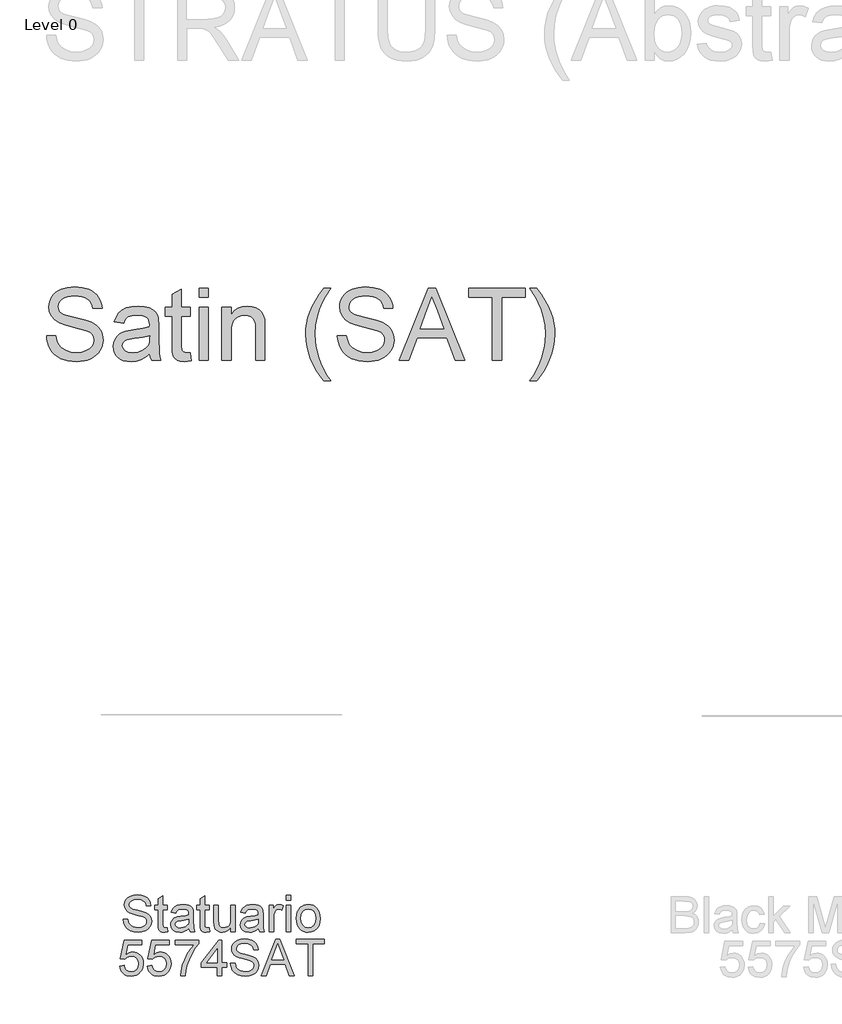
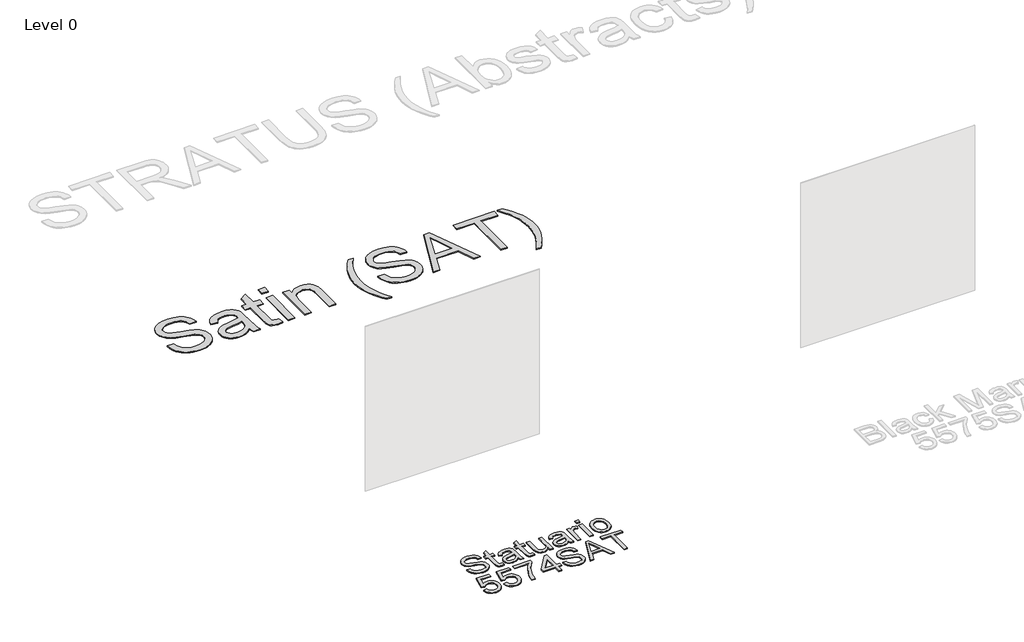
# One storey, part 4 of 9: 2 proxies.
"""IFC4 building model written with IfcOpenShell, lengths in millimetres."""

import ifcopenshell
import ifcopenshell.guid

model = None  # the IFC model being written
_history = None  # IfcOwnerHistory: only IFC2X3 demands one
_inside = {}  # id of a spatial element -> (the spatial element, [elements in it])
_under = {}  # id of a project, library or spatial element -> (it, [spatial elements below it])
_declared = {}  # id of a project -> (the project, [libraries it declares])
_typed = {}  # id of a type object -> (the type object, [elements of that type])
_made_of = {}  # id of a material, layer set ... -> (it, [elements and type objects made of it])


def new_model(schema):
    """Start an empty IFC model of exactly this schema.

    Asked for "IFC4X3", IfcOpenShell would pick the latest addendum, in which some entities
    have other attributes; the version numbers below select the first issue.
    IFC2X3 requires an IfcOwnerHistory on every rooted entity: one is made here for all.
    """
    global model, _history
    if schema == "IFC4X3":
        model = ifcopenshell.file(schema_version=(4, 3, 0, 0))
    else:
        model = ifcopenshell.file(schema=schema)
    _inside.clear()
    _under.clear()
    _declared.clear()
    _typed.clear()
    _made_of.clear()
    _history = None
    if model.schema == "IFC2X3":
        org = make("IfcOrganization", Name="unknown")
        user = make(
            "IfcPersonAndOrganization",
            ThePerson=make("IfcPerson", FamilyName="unknown"),
            TheOrganization=org,
        )
        app = make(
            "IfcApplication",
            ApplicationDeveloper=org,
            Version="unknown",
            ApplicationFullName="unknown",
            ApplicationIdentifier="unknown",
        )
        _history = make(
            "IfcOwnerHistory",
            OwningUser=user,
            OwningApplication=app,
            ChangeAction="ADDED",
            CreationDate=0,
        )
    return model


def make(cls, **values):
    """One entity of the class cls with the attributes given. An attribute that is None is left unset."""
    return model.create_entity(
        cls, **{name: value for name, value in values.items() if value is not None}
    )


def rooted(cls, **values):
    """An entity with a GlobalId (a new one), such as an element, a storey or a relation."""
    return make(cls, GlobalId=ifcopenshell.guid.new(), OwnerHistory=_history, **values)


def si_unit(unit_type, name, prefix=None):
    """IfcSIUnit, for example si_unit("LENGTHUNIT", "METRE", prefix="MILLI")."""
    return make("IfcSIUnit", UnitType=unit_type, Prefix=prefix, Name=name)


def assignment(units):
    """IfcUnitAssignment: the units of a project."""
    return None if units is None else make("IfcUnitAssignment", Units=units)


def point(xyz):
    """IfcCartesianPoint."""
    return None if xyz is None else make("IfcCartesianPoint", Coordinates=xyz)


def direction(xyz):
    """IfcDirection."""
    return None if xyz is None else make("IfcDirection", DirectionRatios=xyz)


def frame(location, z_axis=None, x_axis=None):
    """IfcAxis2Placement3D, a coordinate frame: its origin and axes. An axis left out is left unset."""
    return make(
        "IfcAxis2Placement3D",
        Location=point(location),
        Axis=direction(z_axis),
        RefDirection=direction(x_axis),
    )


def origin():
    """The frame at (0, 0, 0) with its axes left unset."""
    return frame((0.0, 0.0, 0.0))


def origin_with_axes():
    """The frame at (0, 0, 0) with the z axis (0, 0, 1) and the x axis (1, 0, 0) written out."""
    return frame((0.0, 0.0, 0.0), z_axis=(0.0, 0.0, 1.0), x_axis=(1.0, 0.0, 0.0))


def place(relative_to, where):
    """IfcLocalPlacement: puts the frame where relative to a parent placement (None: the world)."""
    return make(
        "IfcLocalPlacement", PlacementRelTo=relative_to, RelativePlacement=where
    )


def context(
    kind, dimensions, precision=None, world=None, true_north=None, identifier=None
):
    """IfcGeometricRepresentationContext, for example the 3D "Model" context."""
    return make(
        "IfcGeometricRepresentationContext",
        ContextIdentifier=identifier,
        ContextType=kind,
        CoordinateSpaceDimension=dimensions,
        Precision=precision,
        WorldCoordinateSystem=world,
        TrueNorth=true_north,
    )


def project(units=None, contexts=None):
    """IfcProject with its units and contexts."""
    return rooted(
        "IfcProject",
        Name="project",
        RepresentationContexts=contexts,
        UnitsInContext=assignment(units),
    )


def spatial(cls, under=None, at=None, **own):
    """A site, building, storey or space (cls), placed at a placement, below another one or the project."""
    s = rooted(cls, ObjectPlacement=at, **own)
    if under is not None:
        _under.setdefault(under.id(), (under, []))[1].append(s)
    return s


def polyline(points):
    """IfcPolyline through the points."""
    return make("IfcPolyline", Points=[point(p) for p in points])


def outline(outer, holes=None, kind="AREA"):
    """IfcArbitraryClosedProfileDef: a profile drawn as a closed curve; with holes, ...WithVoids."""
    if holes is None:
        return make("IfcArbitraryClosedProfileDef", ProfileType=kind, OuterCurve=outer)
    return make(
        "IfcArbitraryProfileDefWithVoids",
        ProfileType=kind,
        OuterCurve=outer,
        InnerCurves=holes,
    )


def extrude(swept, where, along, depth):
    """IfcExtrudedAreaSolid: the profile swept, set in the frame where, extruded along a direction by depth."""
    return make(
        "IfcExtrudedAreaSolid",
        SweptArea=swept,
        Position=where,
        ExtrudedDirection=direction(along),
        Depth=depth,
    )


def shape(context_of_items, identifier, shape_type, items):
    """IfcShapeRepresentation: the items that make up one representation, for example the "Body"."""
    return make(
        "IfcShapeRepresentation",
        ContextOfItems=context_of_items,
        RepresentationIdentifier=identifier,
        RepresentationType=shape_type,
        Items=items,
    )


def made_of(thing, what):
    """Note that an element or type object is made of a material, layer set ...; save() writes the relation."""
    if what is not None:
        _made_of.setdefault(what.id(), (what, []))[1].append(thing)
    return thing


def element(
    cls,
    number,
    at=None,
    inside=None,
    cuts=None,
    type_object=None,
    material=None,
    context=None,
    identifier="Body",
    shape_type=None,
    held_by="IfcProductDefinitionShape",
    body=None,
    shapes=None,
    **own,
):
    """One element of the class cls, such as IfcWall. Its Tag is "e" and its number.

    at: its placement. inside: the storey or other place that contains it. cuts: it is an
    opening in that element (IfcRelVoidsElement). A single representation is given by context,
    identifier, shape_type and body (its items); several are given by shapes. held_by: the class
    of the entity that holds the representations. save() writes the other relations.
    """
    e = rooted(cls, Tag="e%d" % number, ObjectPlacement=at, **own)
    if body is not None:
        shapes = [shape(context, identifier, shape_type, body)]
    if shapes is not None:
        e.Representation = make(held_by, Representations=shapes)
    if inside is not None:
        _inside.setdefault(inside.id(), (inside, []))[1].append(e)
    if cuts is not None:
        rooted(
            "IfcRelVoidsElement", RelatingBuildingElement=cuts, RelatedOpeningElement=e
        )
    if type_object is not None:
        _typed.setdefault(type_object.id(), (type_object, []))[1].append(e)
    return made_of(e, material)


def aggregate(whole, parts):
    """IfcRelAggregates: a whole, such as a stair, and the parts it consists of."""
    return rooted("IfcRelAggregates", RelatingObject=whole, RelatedObjects=parts)


def save(model, path):
    """Write the relations noted so far, then the file.

    IfcRelAggregates (storeys below a building ...), IfcRelContainedInSpatialStructure (elements
    in a storey), IfcRelDefinesByType, IfcRelAssociatesMaterial and IfcRelDeclares: one each for
    every whole, place, type object, material and project.
    """
    for whole, parts in _under.values():
        aggregate(whole, parts)
    for where, things in _inside.values():
        rooted(
            "IfcRelContainedInSpatialStructure",
            RelatedElements=things,
            RelatingStructure=where,
        )
    for kind, things in _typed.values():
        rooted("IfcRelDefinesByType", RelatedObjects=things, RelatingType=kind)
    for what, things in _made_of.values():
        rooted("IfcRelAssociatesMaterial", RelatedObjects=things, RelatingMaterial=what)
    for by, libraries in _declared.values():
        rooted("IfcRelDeclares", RelatingContext=by, RelatedDefinitions=libraries)
    model.write(path)


model = new_model("IFC4")

# Units and contexts
model_context = context("Model", 3, world=origin())
ifc_project = project(units=[si_unit("LENGTHUNIT", "METRE", prefix="MILLI")], contexts=[model_context])

# Site, building, storey
site = spatial("IfcSite", under=ifc_project)
building = spatial("IfcBuilding", under=site)
storey = spatial("IfcBuildingStorey", under=building, Name="Level 0", Elevation=0.0)

# Proxies
placement = place(None, origin())
element("IfcBuildingElementProxy", 1, Name="300mm Arial", ObjectType="300mm Arial", at=placement, inside=storey, context=model_context, shape_type="SweptSolid", body=[
    extrude(outline(polyline([(-10267.6503912, -6889.2649241), (-10229.9792749, -6889.2649241), (-10225.6566614, -6910.1698185), (-10217.839169, -6926.9728286), (-10205.6438809, -6940.308551), (-10188.1878802, -6950.8115819), (-10166.8507245, -6957.6265959), (-10143.0119712, -6959.8982672), (-10122.0243034, -6958.1784189), (-10103.6485977, -6953.0188739), (-10088.758574, -6944.8518936), (-10078.2279519, -6934.1097394), (-10071.9647609, -6921.7764955), (-10069.8770306, -6908.8362463), (-10071.4405291, -6896.2270909), (-10076.1310245, -6885.3285868), (-10085.6591682, -6876.0303694), (-10101.7356114, -6868.222074), (-10156.5868169, -6853.837888), (-10192.5932671, -6844.3189414), (-10215.6318771, -6835.2598472), (-10234.3846618, -6822.5863125), (-10247.6743989, -6807.2272392), (-10255.5930588, -6789.5137211), (-10258.2326121, -6769.7768521), (-10254.9676594, -6747.7131294), (-10245.1728013, -6727.1393289), (-10229.1055552, -6709.7017223), (-10207.0234384, -6697.0465817), (-10180.5175406, -6689.3486509), (-10151.1789515, -6686.782674), (-10119.3939471, -6689.4682126), (-10091.5820683, -6697.5248283), (-10068.7365964, -6710.7869742), (-10051.8508128, -6729.0891034), (-10041.1638409, -6751.2907818), (-10036.9148038, -6776.2515752), (-10074.5859201, -6776.2515752), (-10081.5021016, -6753.7739853), (-10095.9230758, -6737.5503893), (-10118.4558481, -6727.7279401), (-10149.7074235, -6724.4537903), (-10181.694763, -6727.6911519), (-10203.638924, -6737.4032365), (-10216.3308529, -6751.695452), (-10220.5614958, -6768.6732061), (-10217.5632576, -6783.1493626), (-10208.5685428, -6794.7928278), (-10187.3049634, -6805.2038882), (-10147.0586732, -6815.8356779), (-10105.5247959, -6825.9340387), (-10080.3984557, -6834.7448125), (-10058.9233442, -6848.4116286), (-10043.9413499, -6865.2790181), (-10035.1397732, -6885.1630399), (-10032.2059143, -6907.8797531), (-10035.5812316, -6931.102304), (-10045.7071835, -6952.9452975), (-10062.1699028, -6971.7440675), (-10084.5555222, -6985.8339479), (-10111.4752872, -6994.6355246), (-10141.5404432, -6997.5693835), (-10178.4482044, -6994.4055984), (-10208.8260602, -6984.9142429), (-10233.0234984, -6969.0585289), (-10251.390007, -6946.8016682), (-10263.180625, -6919.6887651), (-10267.6503912, -6889.2649241)])), origin_with_axes(), (0.0, 0.0, 1.0), 10.0),
    extrude(outline(polyline([(-9900.3570072, -6961.4433716), (-9895.6481177, -6993.96414), (-9923.8278785, -6997.5693835), (-9941.9092786, -6996.005885), (-9955.3921537, -6991.3153896), (-9964.9202974, -6984.0865084), (-9971.1375031, -6974.9078526), (-9974.5588056, -6959.1441091), (-9975.6992398, -6932.1599648), (-9975.6992398, -6809.213802), (-10003.9525771, -6809.213802), (-10003.9525771, -6771.5426857), (-9975.6992398, -6771.5426857), (-9975.6992398, -6717.758338), (-9938.0281235, -6695.6118419), (-9938.0281235, -6771.5426857), (-9900.3570072, -6771.5426857), (-9900.3570072, -6809.213802), (-9938.0281235, -6809.213802), (-9938.0281235, -6931.0563188), (-9936.0415607, -6950.4804881), (-9929.6036258, -6957.3598814), (-9916.7645442, -6959.8982672), (-9900.3570072, -6961.4433716)])), origin_with_axes(), (0.0, 0.0, 1.0), 10.0),
    extrude(outline(polyline([(-9721.4192048, -6964.6071568), (-9739.4178314, -6980.0398064), (-9757.9498869, -6990.1381672), (-9777.4384356, -6995.7115794), (-9798.3065417, -6997.5693835), (-9829.7880435, -6993.0996173), (-9853.0105944, -6979.6903186), (-9867.3304011, -6959.3280501), (-9872.10367, -6933.9993748), (-9870.3010482, -6918.3827841), (-9864.8931829, -6904.2009331), (-9856.5514586, -6892.0608273), (-9845.9472601, -6882.5694718), (-9819.5701211, -6870.2086368), (-9786.9757763, -6864.5432541), (-9748.4585314, -6858.5835657), (-9721.639934, -6851.5938078), (-9721.4192048, -6843.2060983), (-9724.0127728, -6826.3938912), (-9731.793477, -6815.3942195), (-9749.1942954, -6807.2272392), (-9773.4377189, -6804.5049125), (-9795.8785206, -6806.3167313), (-9811.5502936, -6811.7521878), (-9822.2372655, -6821.8045633), (-9829.7236641, -6837.4671392), (-9867.3947804, -6832.7582497), (-9860.855678, -6812.156858), (-9851.0976081, -6795.9700502), (-9837.2100627, -6783.590821), (-9818.2825341, -6774.4121652), (-9795.1335595, -6768.7283884), (-9768.5816765, -6766.8337961), (-9743.1150454, -6768.5076592), (-9722.9275209, -6773.5292485), (-9707.7064034, -6781.0800264), (-9697.1389931, -6790.3414556), (-9690.1308411, -6801.7917827), (-9685.5874984, -6815.9092543), (-9683.7480885, -6848.8714811), (-9683.7480885, -6895.7396473), (-9681.8351021, -6961.1858542), (-9674.3303094, -6992.860494), (-9712.0014257, -6992.860494), (-9721.4192048, -6964.6071568)]), holes=[polyline([(-9721.4192048, -6889.2649241), (-9782.1933104, -6900.8164188), (-9814.6037141, -6906.9232599), (-9829.2822057, -6916.8560738), (-9834.4325537, -6931.3506244), (-9831.6274535, -6942.5526311), (-9823.2121528, -6951.7312869), (-9809.3705928, -6957.8565221), (-9790.2867143, -6959.8982672), (-9770.0532045, -6957.64499), (-9752.1741396, -6950.8851583), (-9737.6795889, -6940.9247533), (-9727.5996223, -6929.069756), (-9723.129856, -6916.8560738), (-9721.639934, -6899.933502), (-9721.4192048, -6889.2649241)])]), origin_with_axes(), (0.0, 0.0, 1.0), 10.0),
    extrude(outline(polyline([(-9551.8991814, -6961.4433716), (-9547.1902918, -6993.96414), (-9575.3700527, -6997.5693835), (-9593.4514527, -6996.005885), (-9606.9343279, -6991.3153896), (-9616.4624715, -6984.0865084), (-9622.6796773, -6974.9078526), (-9626.1009798, -6959.1441091), (-9627.241414, -6932.1599648), (-9627.241414, -6809.213802), (-9655.4947512, -6809.213802), (-9655.4947512, -6771.5426857), (-9627.241414, -6771.5426857), (-9627.241414, -6717.758338), (-9589.5702977, -6695.6118419), (-9589.5702977, -6771.5426857), (-9551.8991814, -6771.5426857), (-9551.8991814, -6809.213802), (-9589.5702977, -6809.213802), (-9589.5702977, -6931.0563188), (-9587.5837349, -6950.4804881), (-9581.1458, -6957.3598814), (-9568.3067184, -6959.8982672), (-9551.8991814, -6961.4433716)])), origin_with_axes(), (0.0, 0.0, 1.0), 10.0),
    extrude(outline(polyline([(-9372.9613789, -6992.860494), (-9372.9613789, -6954.8214957), (-9386.5914068, -6973.5236966), (-9402.4655149, -6986.8824116), (-9420.5837032, -6994.8976405), (-9440.9459716, -6997.5693835), (-9459.2940861, -6995.6931853), (-9476.3730078, -6990.0645908), (-9490.7020115, -6981.6033049), (-9500.8003723, -6971.2290327), (-9512.0207731, -6943.4907302), (-9514.2280651, -6908.4683643), (-9514.2280651, -6771.5426857), (-9476.5569488, -6771.5426857), (-9476.5569488, -6890.7364521), (-9474.2760804, -6929.1433324), (-9468.7854416, -6941.9548229), (-9459.3768596, -6951.6944987), (-9446.6757337, -6957.8473251), (-9431.3074634, -6959.8982672), (-9415.0562762, -6957.8013398), (-9399.8535528, -6951.5105577), (-9387.3179738, -6941.605335), (-9379.06822, -6928.6650858), (-9374.4880892, -6910.9423707), (-9372.9613789, -6886.6897502), (-9372.9613789, -6771.5426857), (-9335.2902626, -6771.5426857), (-9335.2902626, -6992.860494), (-9372.9613789, -6992.860494)])), origin_with_axes(), (0.0, 0.0, 1.0), 10.0),
    extrude(outline(polyline([(-9142.2257916, -6964.6071568), (-9160.2244182, -6980.0398064), (-9178.7564737, -6990.1381672), (-9198.2450224, -6995.7115794), (-9219.1131285, -6997.5693835), (-9250.5946303, -6993.0996173), (-9273.8171812, -6979.6903186), (-9288.1369879, -6959.3280501), (-9292.9102568, -6933.9993748), (-9291.107635, -6918.3827841), (-9285.6997697, -6904.2009331), (-9277.3580454, -6892.0608273), (-9266.7538469, -6882.5694718), (-9240.3767079, -6870.2086368), (-9207.7823631, -6864.5432541), (-9169.2651182, -6858.5835657), (-9142.4465207, -6851.5938078), (-9142.2257916, -6843.2060983), (-9144.8193596, -6826.3938912), (-9152.6000638, -6815.3942195), (-9170.0008822, -6807.2272392), (-9194.2443057, -6804.5049125), (-9216.6851074, -6806.3167313), (-9232.3568804, -6811.7521878), (-9243.0438523, -6821.8045633), (-9250.5302509, -6837.4671392), (-9288.2013672, -6832.7582497), (-9281.6622648, -6812.156858), (-9271.9041949, -6795.9700502), (-9258.0166495, -6783.590821), (-9239.0891209, -6774.4121652), (-9215.9401463, -6768.7283884), (-9189.3882633, -6766.8337961), (-9163.9216322, -6768.5076592), (-9143.7341077, -6773.5292485), (-9128.5129902, -6781.0800264), (-9117.9455799, -6790.3414556), (-9110.9374279, -6801.7917827), (-9106.3940852, -6815.9092543), (-9104.5546752, -6848.8714811), (-9104.5546752, -6895.7396473), (-9102.6416889, -6961.1858542), (-9095.1368962, -6992.860494), (-9132.8080125, -6992.860494), (-9142.2257916, -6964.6071568)]), holes=[polyline([(-9142.2257916, -6889.2649241), (-9202.9998972, -6900.8164188), (-9235.4103009, -6906.9232599), (-9250.0887925, -6916.8560738), (-9255.2391405, -6931.3506244), (-9252.4340403, -6942.5526311), (-9244.0187396, -6951.7312869), (-9230.1771795, -6957.8565221), (-9211.093301, -6959.8982672), (-9190.8597913, -6957.64499), (-9172.9807263, -6950.8851583), (-9158.4861757, -6940.9247533), (-9148.4062091, -6929.069756), (-9143.9364428, -6916.8560738), (-9142.4465207, -6899.933502), (-9142.2257916, -6889.2649241)])]), origin_with_axes(), (0.0, 0.0, 1.0), 10.0),
    extrude(outline(polyline([(-9052.7568903, -6992.860494), (-9052.7568903, -6771.5426857), (-9019.7946636, -6771.5426857), (-9019.7946636, -6804.2841833), (-9007.6177695, -6785.3014723), (-8996.3973687, -6774.1178596), (-8985.1401796, -6768.654812), (-8972.852921, -6766.8337961), (-8954.0909392, -6769.7400639), (-8935.0346519, -6778.4588672), (-8947.6162161, -6812.2304343), (-8960.8599679, -6806.4362929), (-8974.1037198, -6804.5049125), (-8985.3517118, -6806.3627165), (-8995.4040873, -6811.9361288), (-9003.5250823, -6820.8020848), (-9008.9789329, -6832.5375205), (-9013.5590637, -6853.5803706), (-9015.085774, -6876.5362071), (-9015.085774, -6992.860494), (-9052.7568903, -6992.860494)])), origin_with_axes(), (0.0, 0.0, 1.0), 10.0),
    extrude(outline(polyline([(-8911.4902042, -6729.1626798), (-8911.4902042, -6691.4915635), (-8873.8190879, -6691.4915635), (-8873.8190879, -6729.1626798), (-8911.4902042, -6729.1626798)])), origin_with_axes(), (0.0, 0.0, 1.0), 10.0),
    extrude(outline(polyline([(-8911.4902042, -6992.860494), (-8911.4902042, -6771.5426857), (-8873.8190879, -6771.5426857), (-8873.8190879, -6992.860494), (-8911.4902042, -6992.860494)])), origin_with_axes(), (0.0, 0.0, 1.0), 10.0),
    extrude(outline(polyline([(-8826.7301925, -6882.2015898), (-8824.6930459, -6853.5389839), (-8818.5816063, -6828.8403064), (-8808.3958736, -6808.1055575), (-8794.1358477, -6791.334737), (-8779.7792529, -6780.6155754), (-8763.9327359, -6772.9590314), (-8746.5962969, -6768.3651049), (-8727.7699358, -6766.8337961), (-8706.9869023, -6768.698498), (-8688.1950302, -6774.2926036), (-8671.3943193, -6783.6161129), (-8656.5847697, -6796.669026), (-8644.4975469, -6813.0098843), (-8635.8638163, -6832.1972296), (-8630.683578, -6854.2310619), (-8628.9568319, -6879.1113811), (-8632.0102524, -6917.1687735), (-8641.1705141, -6946.1394806), (-8656.1709025, -6967.8353213), (-8676.7447031, -6984.0681143), (-8701.1812646, -6994.1940662), (-8727.7699358, -6997.5693835), (-8748.8564719, -6995.7115794), (-8767.823088, -6990.1381672), (-8784.6697841, -6980.8491468), (-8799.3965602, -6967.8445183), (-8811.3550244, -6951.3450108), (-8819.8967844, -6931.5713536), (-8825.0218405, -6908.5235466), (-8826.7301925, -6882.2015898)]), holes=[polyline([(-8789.0590762, -6882.1280134), (-8784.6996745, -6916.2214773), (-8771.6214696, -6940.5108861), (-8751.9397829, -6955.0514219), (-8727.7699358, -6959.8982672), (-8703.7104533, -6955.0238308), (-8684.0655548, -6940.4005215), (-8670.9873498, -6915.789216), (-8666.6279482, -6880.950791), (-8671.014941, -6847.8506085), (-8684.1759194, -6823.8922936), (-8703.848409, -6809.3517577), (-8727.7699358, -6804.5049125), (-8751.9397829, -6809.3333636), (-8771.6214696, -6823.8187172), (-8784.6996745, -6848.0529436), (-8789.0590762, -6882.1280134)])]), origin_with_axes(), (0.0, 0.0, 1.0), 10.0),
    extrude(outline(polyline([(-10298.2581732, -7278.7338254), (-10260.5870569, -7274.0249358), (-10253.6708754, -7296.6404815), (-10241.6043459, -7312.8364863), (-10224.4426509, -7322.5761621), (-10202.2409725, -7325.8227207), (-10175.238434, -7321.3069693), (-10155.0049243, -7307.7597148), (-10142.3681777, -7286.7444558), (-10138.1559289, -7259.8246908), (-10142.1014633, -7234.4776213), (-10153.9380665, -7215.0902402), (-10173.757709, -7202.7845875), (-10201.6523613, -7198.6827032), (-10219.9268994, -7200.3197781), (-10234.7249526, -7205.2310027), (-10255.8781674, -7222.2271509), (-10293.5492837, -7217.5182614), (-10260.5870569, -7062.1249066), (-10114.6114812, -7062.1249066), (-10114.6114812, -7099.7960229), (-10230.1264277, -7099.7960229), (-10246.3132355, -7182.790201), (-10219.4026675, -7166.4562404), (-10191.2045126, -7161.0115869), (-10172.8563981, -7162.6992456), (-10155.9982057, -7167.7622215), (-10140.6299353, -7176.2005148), (-10126.751587, -7188.0141254), (-10115.2598732, -7202.4810848), (-10107.0515062, -7218.8794248), (-10102.126486, -7237.2091452), (-10100.4848126, -7257.470246), (-10106.3893186, -7295.1413624), (-10113.7699511, -7311.9351754), (-10124.1028367, -7327.3678251), (-10139.7562156, -7343.1729553), (-10158.0215566, -7354.4623341), (-10178.8988599, -7361.2359613), (-10202.3881253, -7363.4938371), (-10239.3878569, -7357.6904986), (-10255.0665277, -7350.4363255), (-10268.8644018, -7340.2804832), (-10280.3446193, -7327.7288093), (-10289.0703204, -7313.2871418), (-10298.2581732, -7278.7338254)])), origin_with_axes(), (0.0, 0.0, 1.0), 10.0),
    extrude(outline(polyline([(-10067.5225858, -7278.7338254), (-10029.8514695, -7274.0249358), (-10022.935288, -7296.6404815), (-10010.8687586, -7312.8364863), (-9993.7070635, -7322.5761621), (-9971.5053851, -7325.8227207), (-9944.5028466, -7321.3069693), (-9924.2693369, -7307.7597148), (-9911.6325904, -7286.7444558), (-9907.4203415, -7259.8246908), (-9911.3658759, -7234.4776213), (-9923.2024791, -7215.0902402), (-9943.0221216, -7202.7845875), (-9970.9167739, -7198.6827032), (-9989.191312, -7200.3197781), (-10003.9893653, -7205.2310027), (-10025.14258, -7222.2271509), (-10062.8136963, -7217.5182614), (-10029.8514695, -7062.1249066), (-9883.8758938, -7062.1249066), (-9883.8758938, -7099.7960229), (-9999.3908403, -7099.7960229), (-10015.5776481, -7182.790201), (-9988.6670802, -7166.4562404), (-9960.4689252, -7161.0115869), (-9942.1208107, -7162.6992456), (-9925.2626183, -7167.7622215), (-9909.8943479, -7176.2005148), (-9896.0159997, -7188.0141254), (-9884.5242858, -7202.4810848), (-9876.3159188, -7218.8794248), (-9871.3908986, -7237.2091452), (-9869.7492252, -7257.470246), (-9875.6537312, -7295.1413624), (-9883.0343638, -7311.9351754), (-9893.3672493, -7327.3678251), (-9909.0206282, -7343.1729553), (-9927.2859693, -7354.4623341), (-9948.1632725, -7361.2359613), (-9971.6525379, -7363.4938371), (-10008.6522695, -7357.6904986), (-10024.3309403, -7350.4363255), (-10038.1288144, -7340.2804832), (-10049.6090319, -7327.7288093), (-10058.334733, -7313.2871418), (-10067.5225858, -7278.7338254)])), origin_with_axes(), (0.0, 0.0, 1.0), 10.0),
    extrude(outline(polyline([(-9836.7869984, -7099.7960229), (-9836.7869984, -7062.1249066), (-9639.0136378, -7062.1249066), (-9639.0136378, -7092.5855358), (-9667.2025957, -7128.2608923), (-9695.1156421, -7173.6299393), (-9719.7361446, -7224.5540045), (-9738.0474709, -7276.8944154), (-9747.0237916, -7316.0554538), (-9752.0269868, -7358.7849475), (-9789.6981031, -7358.7849475), (-9785.62381, -7319.9550029), (-9774.7253059, -7273.8042066), (-9757.2968963, -7224.8850983), (-9733.632887, -7177.7502177), (-9706.0049492, -7135.1402856), (-9676.6847541, -7099.7960229), (-9836.7869984, -7099.7960229)])), origin_with_axes(), (0.0, 0.0, 1.0), 10.0),
    extrude(outline(polyline([(-9483.6202831, -7358.7849475), (-9483.6202831, -7288.1516044), (-9620.1780797, -7288.1516044), (-9620.1780797, -7250.4804881), (-9474.202504, -7062.1249066), (-9445.9491668, -7062.1249066), (-9445.9491668, -7250.4804881), (-9408.2780505, -7250.4804881), (-9408.2780505, -7288.1516044), (-9445.9491668, -7288.1516044), (-9445.9491668, -7358.7849475), (-9483.6202831, -7358.7849475)]), holes=[polyline([(-9483.6202831, -7250.4804881), (-9483.6202831, -7134.0826249), (-9573.8249483, -7250.4804881), (-9483.6202831, -7250.4804881)])]), origin_with_axes(), (0.0, 0.0, 1.0), 10.0),
    extrude(outline(polyline([(-9375.3158237, -7255.1893777), (-9337.6447074, -7255.1893777), (-9333.3220939, -7276.0942721), (-9325.5046015, -7292.8972822), (-9313.3093134, -7306.2330045), (-9295.8533127, -7316.7360355), (-9274.516157, -7323.5510494), (-9250.6774037, -7325.8227207), (-9229.6897359, -7324.1028724), (-9211.3140302, -7318.9433274), (-9196.4240065, -7310.7763471), (-9185.8933844, -7300.0341929), (-9179.6301934, -7287.700949), (-9177.5424631, -7274.7606998), (-9179.1059616, -7262.1515444), (-9183.796457, -7251.2530403), (-9193.3246007, -7241.9548229), (-9209.4010439, -7234.1465276), (-9264.2522494, -7219.7623415), (-9300.2586996, -7210.2433949), (-9323.2973096, -7201.1843008), (-9342.0500943, -7188.510766), (-9355.3398314, -7173.1516928), (-9363.2584913, -7155.4381747), (-9365.8980446, -7135.7013056), (-9362.6330919, -7113.637583), (-9352.8382338, -7093.0637824), (-9336.7709877, -7075.6261758), (-9314.6888709, -7062.9710352), (-9288.1829731, -7055.2731044), (-9258.844384, -7052.7071275), (-9227.0593796, -7055.3926661), (-9199.2475008, -7063.4492818), (-9176.4020289, -7076.7114277), (-9159.5162453, -7095.013557), (-9148.8292734, -7117.2152354), (-9144.5802363, -7142.1760288), (-9182.2513526, -7142.1760288), (-9189.1675341, -7119.6984389), (-9203.5885083, -7103.4748429), (-9226.1212806, -7093.6523936), (-9257.372856, -7090.3782438), (-9289.3601955, -7093.6156054), (-9311.3043565, -7103.3276901), (-9323.9962854, -7117.6199056), (-9328.2269283, -7134.5976597), (-9325.2286901, -7149.0738162), (-9316.2339753, -7160.7172813), (-9294.9703959, -7171.1283418), (-9254.7241057, -7181.7601314), (-9213.1902284, -7191.8584922), (-9188.0638882, -7200.669266), (-9166.5887767, -7214.3360821), (-9151.6067824, -7231.2034716), (-9142.8052057, -7251.0874934), (-9139.8713468, -7273.8042066), (-9143.2466641, -7297.0267576), (-9153.372616, -7318.869751), (-9169.8353353, -7337.668521), (-9192.2209547, -7351.7584014), (-9219.1407197, -7360.5599781), (-9249.2058757, -7363.4938371), (-9286.1136369, -7360.3300519), (-9316.4914927, -7350.8386964), (-9340.6889309, -7334.9829824), (-9359.0554395, -7312.7261217), (-9370.8460575, -7285.6132187), (-9375.3158237, -7255.1893777)])), origin_with_axes(), (0.0, 0.0, 1.0), 10.0),
    extrude(outline(polyline([(-9118.3870383, -7358.7849475), (-8998.0896258, -7057.4160171), (-8966.0103159, -7057.4160171), (-8845.7864798, -7358.7849475), (-8885.5913117, -7358.7849475), (-8920.0250665, -7264.6071568), (-9044.222028, -7264.6071568), (-9078.6557828, -7358.7849475), (-9118.3870383, -7358.7849475)]), holes=[polyline([(-9030.389665, -7226.9360404), (-8933.7838531, -7226.9360404), (-8961.0071207, -7152.8446066), (-8982.1235473, -7095.0871334), (-9000.885529, -7146.3698835), (-9030.389665, -7226.9360404)])]), origin_with_axes(), (0.0, 0.0, 1.0), 10.0),
    extrude(outline(polyline([(-8730.197957, -7358.7849475), (-8730.197957, -7095.0871334), (-8829.0846373, -7095.0871334), (-8829.0846373, -7057.4160171), (-8593.6401603, -7057.4160171), (-8593.6401603, -7095.0871334), (-8692.5268406, -7095.0871334), (-8692.5268406, -7358.7849475), (-8730.197957, -7358.7849475)])), origin_with_axes(), (0.0, 0.0, 1.0), 10.0),
])
element("IfcBuildingElementProxy", 2, Name="600mm Arial", ObjectType="600mm Arial", at=placement, inside=storey, context=model_context, shape_type="SweptSolid", body=[
    extrude(outline(polyline([(-10905.7165225, -2032.6809076), (-10830.3742899, -2032.6809076), (-10821.729063, -2074.4906964), (-10806.0940782, -2108.0967167), (-10781.7035019, -2134.7681613), (-10746.7915006, -2155.7742232), (-10704.1171891, -2169.4042512), (-10656.4396825, -2173.9475938), (-10614.4643469, -2170.5078971), (-10577.7129356, -2160.1888072), (-10547.9328881, -2143.8548466), (-10526.8716438, -2122.3705381), (-10514.3452619, -2097.7040503), (-10510.1698013, -2071.8235519), (-10513.2967982, -2046.6052412), (-10522.6777891, -2024.8082329), (-10541.7340764, -2006.2117981), (-10573.8869628, -1990.5952074), (-10683.5893738, -1961.8268354), (-10755.6022743, -1942.7889421), (-10801.6794942, -1924.6707539), (-10839.1850636, -1899.3236844), (-10865.7645378, -1868.6055378), (-10881.6018577, -1833.1785017), (-10886.8809643, -1793.7047636), (-10885.248488, -1771.2685604), (-10880.3510589, -1749.5773183), (-10872.1886771, -1728.6310372), (-10860.7613427, -1708.4297171), (-10846.1978142, -1689.796494), (-10828.6268504, -1673.554504), (-10808.0484513, -1659.7037468), (-10784.4626169, -1648.2442227), (-10731.4508214, -1632.8483612), (-10672.7736431, -1627.7164074), (-10609.2036344, -1633.0874845), (-10553.5798767, -1649.2007159), (-10529.2444827, -1661.202866), (-10507.8889329, -1675.7250077), (-10489.5132272, -1692.7671412), (-10474.1173657, -1712.3292662), (-10461.82091, -1733.8411659), (-10452.7434218, -1756.7326231), (-10446.884901, -1781.0036377), (-10444.2453477, -1806.6542098), (-10519.5875803, -1806.6542098), (-10524.6275637, -1782.6131214), (-10533.4199434, -1761.69903), (-10545.9647194, -1743.9119355), (-10562.2618918, -1729.251838), (-10582.6149632, -1717.7923139), (-10607.3274362, -1709.6069395), (-10636.3993109, -1704.6957148), (-10669.8305872, -1703.05864), (-10704.3287213, -1704.6773207), (-10733.8052661, -1709.5333631), (-10758.2602218, -1717.626767), (-10777.6935881, -1728.9575324), (-10792.5008385, -1742.5783633), (-10803.0774458, -1757.5419635), (-10809.4234102, -1773.8483329), (-10811.5387317, -1791.4974716), (-10810.0396126, -1806.681801), (-10805.5422552, -1820.4497846), (-10798.0466595, -1832.8014226), (-10787.5528256, -1843.7367149), (-10771.034924, -1854.0925931), (-10745.025667, -1864.5588358), (-10664.5330864, -1885.8224152), (-10581.4653319, -1906.0191367), (-10531.2126514, -1923.6406843), (-10488.2624284, -1950.9743165), (-10471.6571549, -1967.0415627), (-10458.2984399, -1984.7090955), (-10448.0299337, -2003.8849445), (-10440.6952865, -2024.4771392), (-10434.8275686, -2069.9105656), (-10436.5152273, -2093.4780059), (-10441.5782033, -2116.3556674), (-10450.0164965, -2138.5435503), (-10461.8301071, -2160.0416544), (-10476.8121013, -2180.0176467), (-10494.7555457, -2197.6391943), (-10515.66044, -2212.9062971), (-10539.5267845, -2225.8189551), (-10565.6602017, -2236.0874613), (-10593.3663145, -2243.4221086), (-10653.4966266, -2249.2898264), (-10692.0368641, -2247.7079338), (-10727.3121489, -2242.9622561), (-10759.322481, -2235.0527932), (-10788.0678604, -2223.9795451), (-10813.7230311, -2209.7241178), (-10836.4627369, -2192.2681172), (-10856.2869779, -2171.6115431), (-10873.1957541, -2147.7543957), (-10886.816585, -2121.4692272), (-10896.77699, -2093.5285896), (-10903.0769692, -2063.9324831), (-10905.7165225, -2032.6809076)])), origin_with_axes(), (0.0, 0.0, 1.0), 10.0),
    extrude(outline(polyline([(-10048.6986265, -2183.3653729), (-10084.6958797, -2214.2306723), (-10121.7599907, -2234.4273938), (-10160.7370881, -2245.5742183), (-10202.4733005, -2249.2898264), (-10236.0195399, -2247.0549433), (-10265.436304, -2240.3502939), (-10290.7235926, -2229.1758783), (-10311.8814059, -2213.5316965), (-10328.587847, -2194.4110298), (-10340.5210192, -2172.8071596), (-10347.6809225, -2148.720086), (-10350.067557, -2122.1498089), (-10346.4623134, -2090.9166275), (-10335.6465827, -2062.5529257), (-10318.9631343, -2038.272714), (-10297.7547372, -2019.290003), (-10272.8307321, -2004.9426052), (-10245.0004591, -1994.5683329), (-10179.8117696, -1983.2375675), (-10102.7772798, -1971.3181908), (-10049.1400849, -1957.338675), (-10048.6986265, -1940.5632561), (-10053.8857626, -1906.9388417), (-10060.3696828, -1894.4860362), (-10069.447171, -1884.9394984), (-10085.1373381, -1875.4113547), (-10104.2488078, -1868.6055378), (-10152.7356547, -1863.1608843), (-10197.6172582, -1866.7845219), (-10228.9608041, -1877.6554349), (-10250.3347481, -1897.7601859), (-10265.3075453, -1929.0853378), (-10340.6497779, -1919.6675587), (-10327.571573, -1878.4647753), (-10308.0554331, -1846.0911597), (-10280.2803425, -1821.3327014), (-10242.4252852, -1802.9753899), (-10196.1273361, -1791.6078362), (-10143.0235701, -1787.8186517), (-10092.0903078, -1791.1663778), (-10051.7152589, -1801.2095563), (-10021.2730238, -1816.3111122), (-10000.1382031, -1834.8339706), (-9986.1218991, -1857.7346248), (-9977.0352138, -1885.969568), (-9973.3563939, -1951.8940215), (-9973.3563939, -2045.6303539), (-9969.5304211, -2176.5227678), (-9963.8650384, -2208.8779892), (-9954.5208357, -2239.8720473), (-10029.8630684, -2239.8720473), (-10041.9295978, -2213.6788493), (-10048.6986265, -2183.3653729)]), holes=[polyline([(-10048.6986265, -2032.6809076), (-10099.319189, -2045.2256837), (-10170.2468377, -2055.7838969), (-10235.0676453, -2067.9975792), (-10251.9350347, -2076.3485005), (-10264.4246285, -2087.8632069), (-10272.1501504, -2101.6587817), (-10274.7253243, -2116.8523081), (-10269.1151239, -2139.2563216), (-10252.2845226, -2157.6136332), (-10224.6014025, -2169.8641036), (-10186.4336455, -2173.9475938), (-10145.966626, -2169.4410394), (-10110.2084961, -2155.921376), (-10081.2193949, -2136.000566), (-10061.0594615, -2112.2905714), (-10052.1199291, -2087.8632069), (-10049.1400849, -2054.0180634), (-10048.6986265, -2032.6809076)])]), origin_with_axes(), (0.0, 0.0, 1.0), 10.0),
    extrude(outline(polyline([(-9709.6585798, -2177.0378026), (-9700.2408007, -2242.0793393), (-9756.6003223, -2249.2898264), (-9792.7631225, -2246.1628294), (-9819.7288727, -2236.7818386), (-9838.7851601, -2222.3240762), (-9851.2195715, -2203.9667646), (-9858.0621766, -2172.4392776), (-9860.343045, -2118.4709889), (-9860.343045, -1872.5786633), (-9916.8497194, -1872.5786633), (-9916.8497194, -1797.2364307), (-9860.343045, -1797.2364307), (-9860.343045, -1689.6677353), (-9785.0008124, -1645.3747431), (-9785.0008124, -1797.2364307), (-9709.6585798, -1797.2364307), (-9709.6585798, -1872.5786633), (-9785.0008124, -1872.5786633), (-9785.0008124, -2116.2636969), (-9781.0276868, -2155.1120356), (-9768.151817, -2168.8708223), (-9757.280904, -2172.6784009), (-9742.4736537, -2173.9475938), (-9709.6585798, -2177.0378026)])), origin_with_axes(), (0.0, 0.0, 1.0), 10.0),
    extrude(outline(polyline([(-9634.3163471, -1712.476419), (-9634.3163471, -1637.1341864), (-9558.9741145, -1637.1341864), (-9558.9741145, -1712.476419), (-9634.3163471, -1712.476419)])), origin_with_axes(), (0.0, 0.0, 1.0), 10.0),
    extrude(outline(polyline([(-9634.3163471, -2239.8720473), (-9634.3163471, -1797.2364307), (-9558.9741145, -1797.2364307), (-9558.9741145, -2239.8720473), (-9634.3163471, -2239.8720473)])), origin_with_axes(), (0.0, 0.0, 1.0), 10.0),
    extrude(outline(polyline([(-9445.9607656, -2239.8720473), (-9445.9607656, -1797.2364307), (-9370.618533, -1797.2364307), (-9370.618533, -1859.0406059), (-9344.443729, -1827.8810009), (-9313.0082126, -1805.6241402), (-9276.3119835, -1792.2700238), (-9234.355042, -1787.8186517), (-9197.2173546, -1791.4055011), (-9163.2066641, -1802.1660495), (-9134.8429623, -1818.7575275), (-9114.6462408, -1839.8371658), (-9100.9426364, -1865.3497821), (-9092.0582862, -1895.2401942), (-9088.0851607, -1968.0808293), (-9088.0851607, -2239.8720473), (-9163.4273933, -2239.8720473), (-9163.4273933, -1978.2343724), (-9165.5978971, -1939.2756691), (-9172.1094084, -1911.5741548), (-9184.1207555, -1891.7269212), (-9202.7907668, -1876.3310597), (-9226.7214906, -1866.4534281), (-9254.5149753, -1863.1608843), (-9277.3926369, -1865.0094913), (-9298.6424206, -1870.5553124), (-9318.2643266, -1879.7983475), (-9336.2583546, -1892.7385967), (-9351.2909327, -1910.8475879), (-9362.0284884, -1935.5968491), (-9368.4710219, -1966.9863804), (-9370.618533, -2005.0161816), (-9370.618533, -2239.8720473), (-9445.9607656, -2239.8720473)])), origin_with_axes(), (0.0, 0.0, 1.0), 10.0),
    extrude(outline(polyline([(-8598.3606487, -2409.3920707), (-8628.7752927, -2370.0378943), (-8656.7435214, -2327.4647504), (-8682.2653348, -2281.672639), (-8705.3407329, -2232.6615602), (-8724.4613996, -2181.5811452), (-8738.1190187, -2129.5810252), (-8746.3135901, -2076.6612002), (-8749.0451139, -2022.8216702), (-8747.0033689, -1975.5028485), (-8740.8781337, -1929.1957024), (-8730.6694083, -1883.9002317), (-8716.3771928, -1839.6164366), (-8694.653761, -1788.8303271), (-8667.743193, -1738.1545823), (-8635.6454889, -1687.5892021), (-8598.3606487, -1637.1341864), (-8541.8539743, -1637.1341864), (-8586.1837547, -1708.7608109), (-8612.3401645, -1756.4751057), (-8636.399647, -1813.1289329), (-8654.7201704, -1872.137205), (-8668.9572036, -1947.5162258), (-8673.7028813, -2023.2631286), (-8671.6427422, -2071.561436), (-8665.4623246, -2119.8505464), (-8655.1616288, -2168.1304597), (-8640.7406546, -2216.401176), (-8622.199402, -2264.6626953), (-8599.5378711, -2312.9150175), (-8572.7560619, -2361.1581426), (-8541.8539743, -2409.3920707), (-8598.3606487, -2409.3920707)])), origin_with_axes(), (0.0, 0.0, 1.0), 10.0),
    extrude(outline(polyline([(-8485.3472998, -2032.6809076), (-8410.0050672, -2032.6809076), (-8401.3598403, -2074.4906964), (-8385.7248555, -2108.0967167), (-8361.3342792, -2134.7681613), (-8326.4222779, -2155.7742232), (-8283.7479664, -2169.4042512), (-8236.0704599, -2173.9475938), (-8194.0951242, -2170.5078971), (-8157.3437129, -2160.1888072), (-8127.5636654, -2143.8548466), (-8106.5024212, -2122.3705381), (-8093.9760392, -2097.7040503), (-8089.8005786, -2071.8235519), (-8092.9275755, -2046.6052412), (-8102.3085664, -2024.8082329), (-8121.3648538, -2006.2117981), (-8153.5177402, -1990.5952074), (-8263.2201511, -1961.8268354), (-8335.2330517, -1942.7889421), (-8381.3102716, -1924.6707539), (-8418.815841, -1899.3236844), (-8445.3953151, -1868.6055378), (-8461.232635, -1833.1785017), (-8466.5117417, -1793.7047636), (-8464.8792653, -1771.2685604), (-8459.9818362, -1749.5773183), (-8451.8194545, -1728.6310372), (-8440.39212, -1708.4297171), (-8425.8285915, -1689.796494), (-8408.2576277, -1673.554504), (-8387.6792286, -1659.7037468), (-8364.0933942, -1648.2442227), (-8311.0815987, -1632.8483612), (-8252.4044205, -1627.7164074), (-8188.8344117, -1633.0874845), (-8133.210654, -1649.2007159), (-8108.87526, -1661.202866), (-8087.5197102, -1675.7250077), (-8069.1440046, -1692.7671412), (-8053.7481431, -1712.3292662), (-8041.4516874, -1733.8411659), (-8032.3741991, -1756.7326231), (-8026.5156784, -1781.0036377), (-8023.8761251, -1806.6542098), (-8099.2183577, -1806.6542098), (-8104.258341, -1782.6131214), (-8113.0507207, -1761.69903), (-8125.5954967, -1743.9119355), (-8141.8926691, -1729.251838), (-8162.2457405, -1717.7923139), (-8186.9582135, -1709.6069395), (-8216.0300882, -1704.6957148), (-8249.4613645, -1703.05864), (-8283.9594986, -1704.6773207), (-8313.4360435, -1709.5333631), (-8337.8909991, -1717.626767), (-8357.3243655, -1728.9575324), (-8372.1316158, -1742.5783633), (-8382.7082231, -1757.5419635), (-8389.0541876, -1773.8483329), (-8391.169509, -1791.4974716), (-8389.6703899, -1806.681801), (-8385.1730325, -1820.4497846), (-8377.6774369, -1832.8014226), (-8367.183603, -1843.7367149), (-8350.6657014, -1854.0925931), (-8324.6564443, -1864.5588358), (-8244.1638638, -1885.8224152), (-8161.0961093, -1906.0191367), (-8110.8434287, -1923.6406843), (-8067.8932058, -1950.9743165), (-8051.2879322, -1967.0415627), (-8037.9292173, -1984.7090955), (-8027.6607111, -2003.8849445), (-8020.3260638, -2024.4771392), (-8014.458346, -2069.9105656), (-8016.1460046, -2093.4780059), (-8021.2089806, -2116.3556674), (-8029.6472739, -2138.5435503), (-8041.4608844, -2160.0416544), (-8056.4428787, -2180.0176467), (-8074.386323, -2197.6391943), (-8095.2912174, -2212.9062971), (-8119.1575618, -2225.8189551), (-8145.290979, -2236.0874613), (-8172.9970918, -2243.4221086), (-8233.1274039, -2249.2898264), (-8271.6676414, -2247.7079338), (-8306.9429262, -2242.9622561), (-8338.9532583, -2235.0527932), (-8367.6986377, -2223.9795451), (-8393.3538084, -2209.7241178), (-8416.0935142, -2192.2681172), (-8435.9177552, -2171.6115431), (-8452.8265314, -2147.7543957), (-8466.4473623, -2121.4692272), (-8476.4077673, -2093.5285896), (-8482.7077465, -2063.9324831), (-8485.3472998, -2032.6809076)])), origin_with_axes(), (0.0, 0.0, 1.0), 10.0),
    extrude(outline(polyline([(-7971.4897289, -2239.8720473), (-7730.8949041, -1637.1341864), (-7666.7362841, -1637.1341864), (-7426.2886121, -2239.8720473), (-7505.8982758, -2239.8720473), (-7574.7657853, -2051.5164658), (-7823.1597085, -2051.5164658), (-7892.027218, -2239.8720473), (-7971.4897289, -2239.8720473)]), holes=[polyline([(-7795.4949824, -1976.1742332), (-7602.2833586, -1976.1742332), (-7656.7298939, -1827.9913655), (-7698.9627469, -1712.476419), (-7736.4867104, -1815.0419193), (-7795.4949824, -1976.1742332)])]), origin_with_axes(), (0.0, 0.0, 1.0), 10.0),
    extrude(outline(polyline([(-7195.1115663, -2239.8720473), (-7195.1115663, -1712.476419), (-7392.8849269, -1712.476419), (-7392.8849269, -1637.1341864), (-6921.9959731, -1637.1341864), (-6921.9959731, -1712.476419), (-7119.7693337, -1712.476419), (-7119.7693337, -2239.8720473), (-7195.1115663, -2239.8720473)])), origin_with_axes(), (0.0, 0.0, 1.0), 10.0),
    extrude(outline(polyline([(-6827.8181823, -2409.3920707), (-6884.3248568, -2409.3920707), (-6853.4227692, -2361.1581426), (-6826.64096, -2312.9150175), (-6803.979429, -2264.6626953), (-6785.4381765, -2216.401176), (-6771.0172023, -2168.1304597), (-6760.7165064, -2119.8505464), (-6754.5360889, -2071.561436), (-6752.4759497, -2023.2631286), (-6757.2216275, -1948.0680488), (-6771.4586607, -1873.4615801), (-6789.4480902, -1814.3429435), (-6813.3972081, -1757.6523281), (-6839.6639826, -1709.4229985), (-6884.3248568, -1637.1341864), (-6827.8181823, -1637.1341864), (-6790.5333421, -1687.5892021), (-6758.435638, -1738.1545823), (-6731.5250701, -1788.8303271), (-6709.8016383, -1839.6164366), (-6695.5094228, -1883.9002317), (-6685.3006974, -1929.1957024), (-6679.1754622, -1975.5028485), (-6677.1337171, -2022.8216702), (-6679.8790365, -2076.6612002), (-6688.1149947, -2129.5810252), (-6701.8415916, -2181.5811452), (-6721.0588273, -2232.6615602), (-6744.2032034, -2281.672639), (-6769.7112212, -2327.4647504), (-6797.5828809, -2370.0378943), (-6827.8181823, -2409.3920707)])), origin_with_axes(), (0.0, 0.0, 1.0), 10.0),
])

save(model, "model.ifc")
